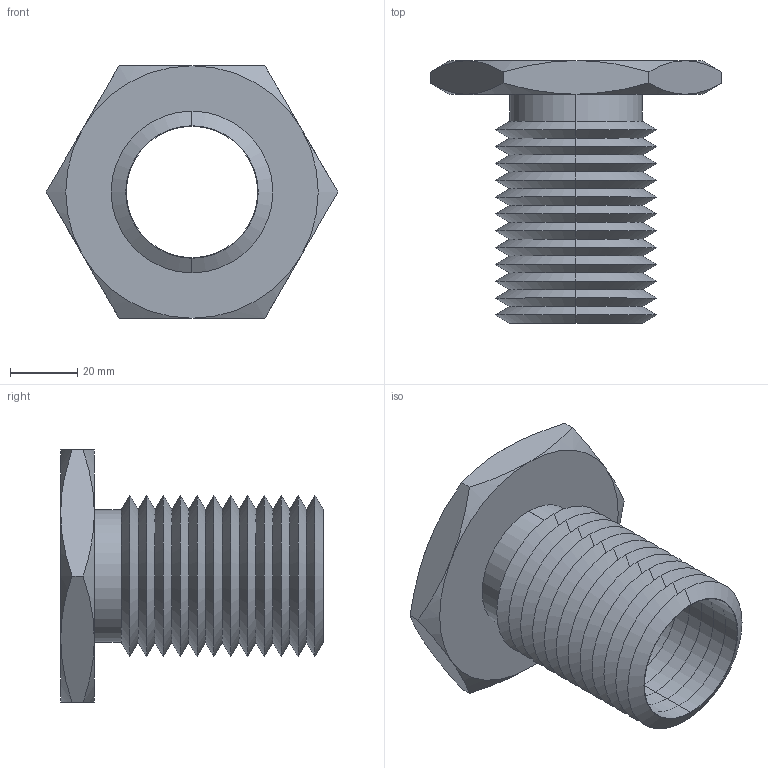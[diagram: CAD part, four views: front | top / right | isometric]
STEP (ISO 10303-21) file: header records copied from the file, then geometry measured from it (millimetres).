
FILE_DESCRIPTION (( 'STEP AP203' ), '1' );
FILE_NAME ('63302.W0048_M39x4.step', '2013-12-08T11:19:21', ( 'User' ), ( '' ), 'SwSTEP 2.0', 'SolidWorks 2009', '' );
FILE_SCHEMA (( 'CONFIG_CONTROL_DESIGN' ));
Length unit declared in the file: millimetre
Products named in the file (1): 63302.W0048_M39x4
Bounding box: 86.6 x 78 x 75 mm (x, y, z)
Volume: 53458.7 mm3; surface area: 36237.3 mm2
Topology: 1 solids, 1 shells, 75 faces, 154 edges, 82 vertices
Faces by surface type: cone 62, plane 9, cylinder 4
Entity records: 2139 total; most frequent: CARTESIAN_POINT 496, DIRECTION 352, ORIENTED_EDGE 308, EDGE_CURVE 154, AXIS2_PLACEMENT_3D 146, VERTEX_POINT 82, EDGE_LOOP 78, ADVANCED_FACE 75
